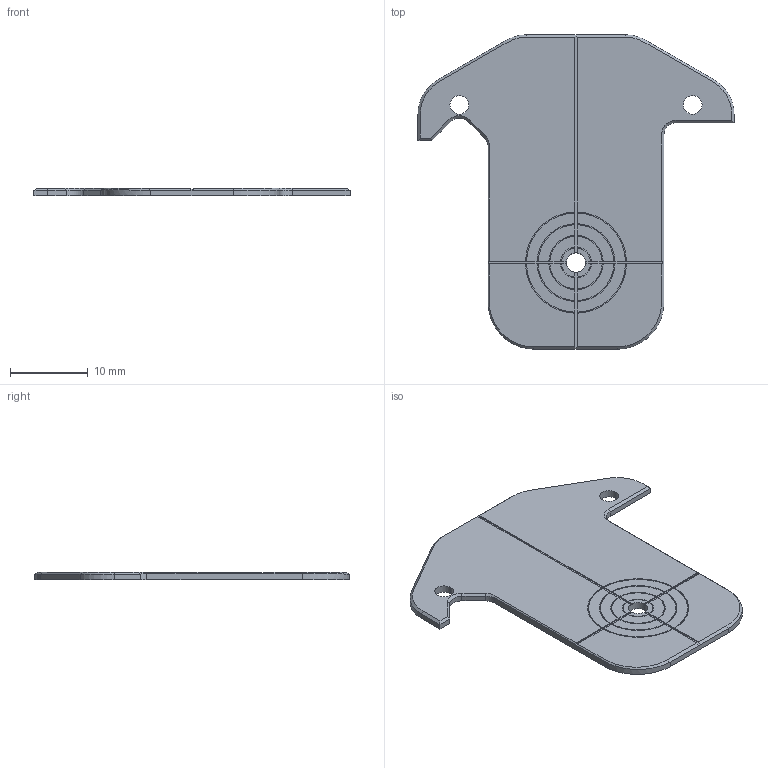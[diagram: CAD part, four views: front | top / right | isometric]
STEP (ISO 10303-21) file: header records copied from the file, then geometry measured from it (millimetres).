
FILE_DESCRIPTION((''),'2;1');
FILE_NAME('CPZ-S3','2025-12-26T18:10:13',('R&D'),(''),'CREO PARAMETRIC BY PTC INC, 2021063','CREO PARAMETRIC BY PTC INC, 2021063','');
FILE_SCHEMA(('CONFIG_CONTROL_DESIGN'));
Length unit declared in the file: millimetre
Products named in the file (1): CPZ-S3
Bounding box: 40.64 x 40.42 x 1 mm (x, y, z)
Volume: 992.7 mm3; surface area: 2189.3 mm2
Topology: 1 solids, 1 shells, 146 faces, 378 edges, 246 vertices
Faces by surface type: plane 90, cylinder 47, cone 9
Entity records: 4514 total; most frequent: CARTESIAN_POINT 802, DIRECTION 771, ORIENTED_EDGE 756, EDGE_CURVE 378, VECTOR 263, LINE 263, AXIS2_PLACEMENT_3D 254, VERTEX_POINT 246
